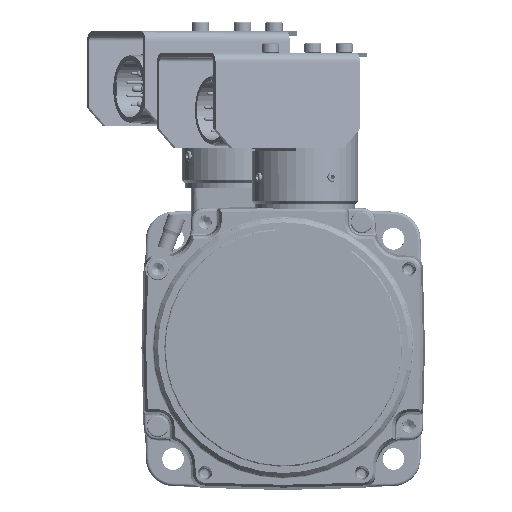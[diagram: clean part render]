
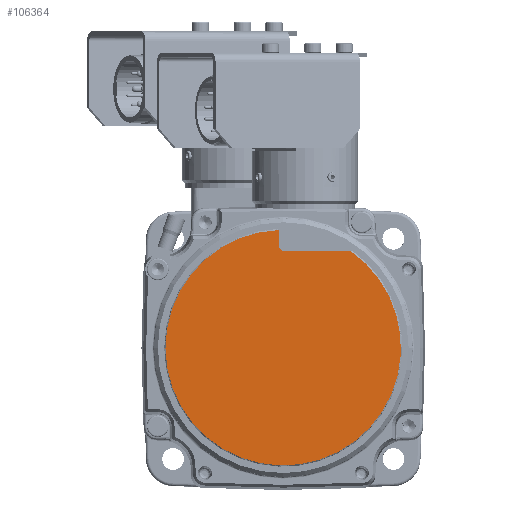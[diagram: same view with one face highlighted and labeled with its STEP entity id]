
A CAD part, top view. The second image highlights one B-rep face of the part: STEP entity #106364.
In plain terms, the highlighted planar face has unit normal (0, 0, 1).
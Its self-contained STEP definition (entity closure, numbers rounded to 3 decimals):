
#100165=CARTESIAN_POINT('',(-1.5,37.77,60.3));
#100167=CARTESIAN_POINT('',(0.,0.,60.3));
#100168=DIRECTION('',(0.,0.,-1.));
#100169=DIRECTION('',(0.572,0.82,0.));
#100170=AXIS2_PLACEMENT_3D('',#100167,#100168,#100169);
#100193=CARTESIAN_POINT('',(0.5,33.,60.3));
#100194=DIRECTION('',(0.,0.,-1.));
#100195=DIRECTION('',(0.,-1.,0.));
#100196=AXIS2_PLACEMENT_3D('',#100193,#100194,#100195);
#100215=DIRECTION('',(0.,-1.,0.));
#100216=VECTOR('',#100215,4.77);
#100217=CARTESIAN_POINT('',(-1.5,37.77,60.3));
#100218=LINE('',#100217,#100216);
#100219=DIRECTION('',(1.,0.,0.));
#100220=VECTOR('',#100219,21.13);
#100221=CARTESIAN_POINT('',(0.5,31.,60.3));
#100222=LINE('',#100221,#100220);
#101640=CARTESIAN_POINT('',(0.5,31.,60.3));
#101642=VERTEX_POINT('',#101640);
#101644=CARTESIAN_POINT('',(-1.5,33.,60.3));
#101646=VERTEX_POINT('',#101644);
#101660=VERTEX_POINT('',#100165);
#101661=CARTESIAN_POINT('',(21.63,31.,60.3));
#101662=VERTEX_POINT('',#101661);
#106353=CARTESIAN_POINT('',(0.,0.,60.3));
#106354=DIRECTION('',(0.,0.,1.));
#106355=DIRECTION('',(1.,0.,0.));
#106356=AXIS2_PLACEMENT_3D('',#106353,#106354,#106355);
#106357=PLANE('',#106356);
#106358=ORIENTED_EDGE('',*,*,#106301,.T.);
#106359=ORIENTED_EDGE('',*,*,#106319,.T.);
#106360=ORIENTED_EDGE('',*,*,#106331,.F.);
#106361=ORIENTED_EDGE('',*,*,#106344,.T.);
#106362=EDGE_LOOP('',(#106358,#106359,#106360,#106361));
#106363=FACE_OUTER_BOUND('',#106362,.F.);
#106364=ADVANCED_FACE('',(#106363),#106357,.T.);
#100171=CIRCLE('',#100170,37.8);
#100197=CIRCLE('',#100196,2.);
#106301=EDGE_CURVE('',#101662,#101660,#100171,.T.);
#106319=EDGE_CURVE('',#101660,#101646,#100218,.T.);
#106331=EDGE_CURVE('',#101642,#101646,#100197,.T.);
#106344=EDGE_CURVE('',#101642,#101662,#100222,.T.);
